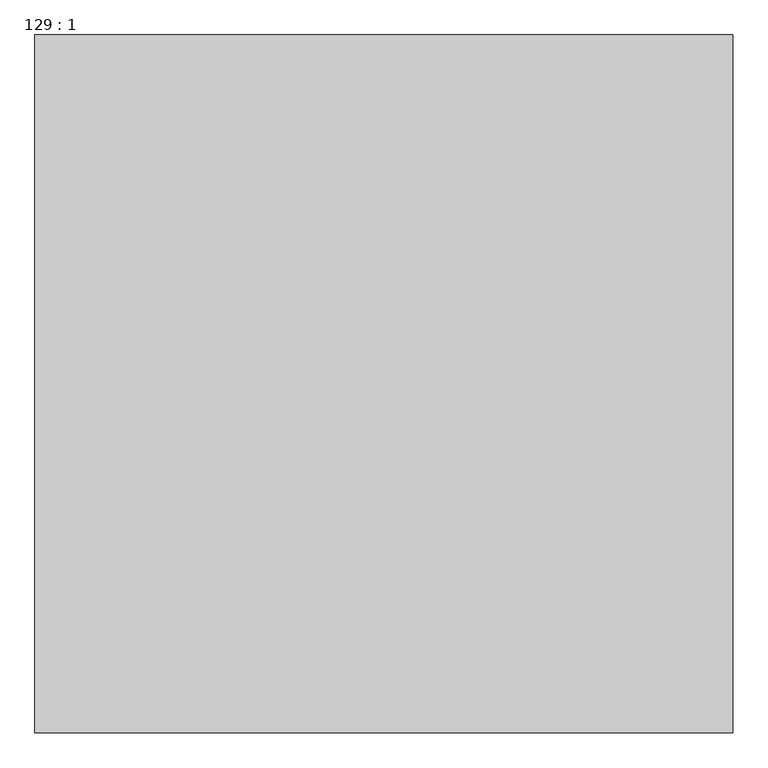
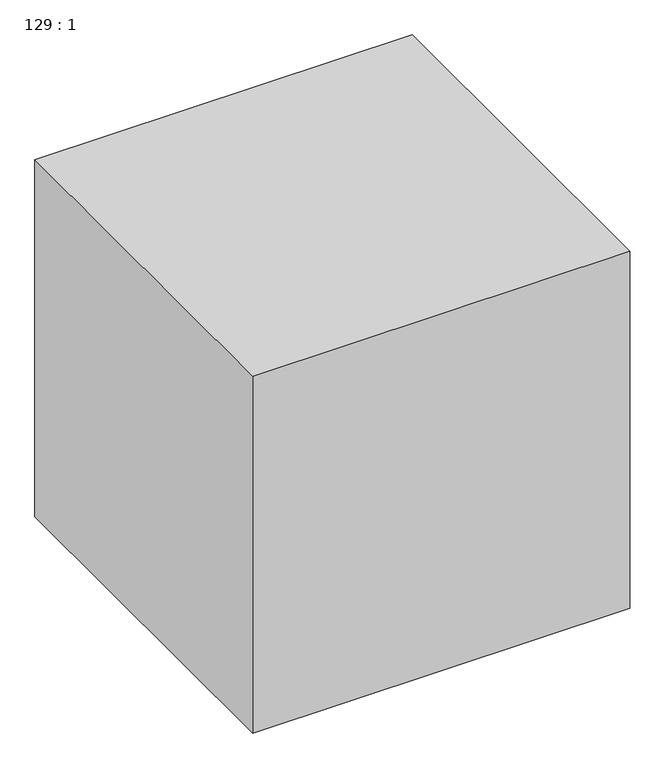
"""IFC4 building model written with IfcOpenShell, lengths in millimetres: proxy geometry, 129 : 1."""

from ifc_helpers import new_model, si_unit, origin, origin_with_axes, place, context, project, spatial, polyline, outline, extrude, source, transform, mapped, element, save


def proxy_129_1_60290f64(model_context):
    return source(origin(), model_context, "Body", "SweptSolid", [
        extrude(outline(polyline([(-2307.9756708, -12664.7705528), (-2307.9756708, -13664.7705528), (-3307.9756708, -13664.7705528), (-3307.9756708, -12664.7705528), (-2307.9756708, -12664.7705528)])), origin_with_axes(), (0.0, 0.0, 1.0), 1000.0),
    ])


if __name__ == "__main__":
    model = new_model("IFC4")
    model_context = context("Model", 3, world=origin())
    ifc_project = project(units=[si_unit("LENGTHUNIT", "METRE", prefix="MILLI")], contexts=[model_context])
    site = spatial("IfcSite", under=ifc_project)
    building = spatial("IfcBuilding", under=site)
    placement = place(None, origin())
    proxy_129_1_shape = proxy_129_1_60290f64(model_context)
    element("IfcBuildingElementProxy", 1, Name="129 : 1", ObjectType="129 : 1", at=placement, inside=building, context=model_context, shape_type="MappedRepresentation", body=[
        mapped(proxy_129_1_shape, transform((0.0, 0.0, 0.0), x_axis=(1.0, 0.0, 0.0), y_axis=(0.0, 1.0, 0.0), z_axis=(0.0, 0.0, 1.0))),
    ])
    save(model, "model.ifc")
